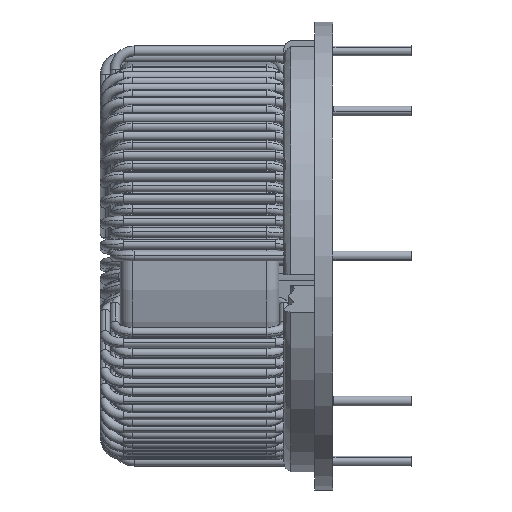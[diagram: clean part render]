
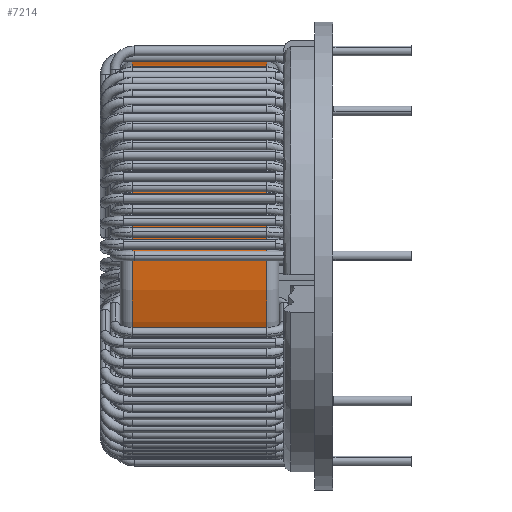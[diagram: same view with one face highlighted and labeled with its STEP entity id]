
A CAD part, left-side view. The second image highlights one B-rep face of the part: STEP entity #7214.
In plain terms, the highlighted cylindrical face has radius 32.23 mm (diameter 64.46 mm), a partial arc.
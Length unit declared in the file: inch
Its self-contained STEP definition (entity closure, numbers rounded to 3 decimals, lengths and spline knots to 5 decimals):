
#955 = FACE_OUTER_BOUND ( 'NONE', #33322, .T. ) ;
#1310 = CARTESIAN_POINT ( 'NONE',  ( 0., 1.3113, -1.2689 ) ) ;
#7214 = ADVANCED_FACE ( 'NONE', ( #955 ), #56146, .T. ) ;
#7947 = CARTESIAN_POINT ( 'NONE',  ( 0., 0.4311, -1.2689 ) ) ;
#9202 = CARTESIAN_POINT ( 'NONE',  ( 0., 0.4311, 1.2689 ) ) ;
#11163 = ORIENTED_EDGE ( 'NONE', *, *, #27799, .F. ) ;
#11305 = DIRECTION ( 'NONE',  ( 0., 1., 0. ) ) ;
#11338 = VERTEX_POINT ( 'NONE', #53165 ) ;
#15119 = EDGE_CURVE ( 'NONE', #11338, #41374, #42051, .T. ) ;
#17390 = DIRECTION ( 'NONE',  ( 0., -1., 0. ) ) ;
#17683 = DIRECTION ( 'NONE',  ( 0., -1., 0. ) ) ;
#18491 = VERTEX_POINT ( 'NONE', #7947 ) ;
#18765 = AXIS2_PLACEMENT_3D ( 'NONE', #33425, #11305, #25040 ) ;
#19374 = DIRECTION ( 'NONE',  ( 0., 0., -1. ) ) ;
#20391 = ORIENTED_EDGE ( 'NONE', *, *, #43917, .T. ) ;
#22194 = ORIENTED_EDGE ( 'NONE', *, *, #15119, .T. ) ;
#25040 = DIRECTION ( 'NONE',  ( 0., 0., 1. ) ) ;
#27517 = LINE ( 'NONE', #34856, #30340 ) ;
#27799 = EDGE_CURVE ( 'NONE', #11338, #43130, #48011, .T. ) ;
#29153 = AXIS2_PLACEMENT_3D ( 'NONE', #47853, #34077, #19374 ) ;
#30340 = VECTOR ( 'NONE', #17390, 39.37008 ) ;
#31869 = AXIS2_PLACEMENT_3D ( 'NONE', #38567, #55058, #53236 ) ;
#33322 = EDGE_LOOP ( 'NONE', ( #11163, #22194, #20391, #34262 ) ) ;
#33425 = CARTESIAN_POINT ( 'NONE',  ( 0., 0.4311, 0. ) ) ;
#34077 = DIRECTION ( 'NONE',  ( 0., -1., 0. ) ) ;
#34262 = ORIENTED_EDGE ( 'NONE', *, *, #36872, .T. ) ;
#34856 = CARTESIAN_POINT ( 'NONE',  ( 0., 1.39004, -1.2689 ) ) ;
#36872 = EDGE_CURVE ( 'NONE', #18491, #43130, #38482, .T. ) ;
#38482 = CIRCLE ( 'NONE', #18765, 1.2689 ) ;
#38567 = CARTESIAN_POINT ( 'NONE',  ( 0., 1.3113, 0. ) ) ;
#41374 = VERTEX_POINT ( 'NONE', #1310 ) ;
#42051 = CIRCLE ( 'NONE', #31869, 1.2689 ) ;
#43130 = VERTEX_POINT ( 'NONE', #9202 ) ;
#43917 = EDGE_CURVE ( 'NONE', #41374, #18491, #27517, .T. ) ;
#47853 = CARTESIAN_POINT ( 'NONE',  ( 0., 1.39004, 0. ) ) ;
#48011 = LINE ( 'NONE', #54477, #52213 ) ;
#52213 = VECTOR ( 'NONE', #17683, 39.37008 ) ;
#53165 = CARTESIAN_POINT ( 'NONE',  ( 0., 1.3113, 1.2689 ) ) ;
#53236 = DIRECTION ( 'NONE',  ( 0., 0., 1. ) ) ;
#54477 = CARTESIAN_POINT ( 'NONE',  ( 0., 1.39004, 1.2689 ) ) ;
#55058 = DIRECTION ( 'NONE',  ( 0., -1., 0. ) ) ;
#56146 = CYLINDRICAL_SURFACE ( 'NONE', #29153, 1.2689 ) ;
